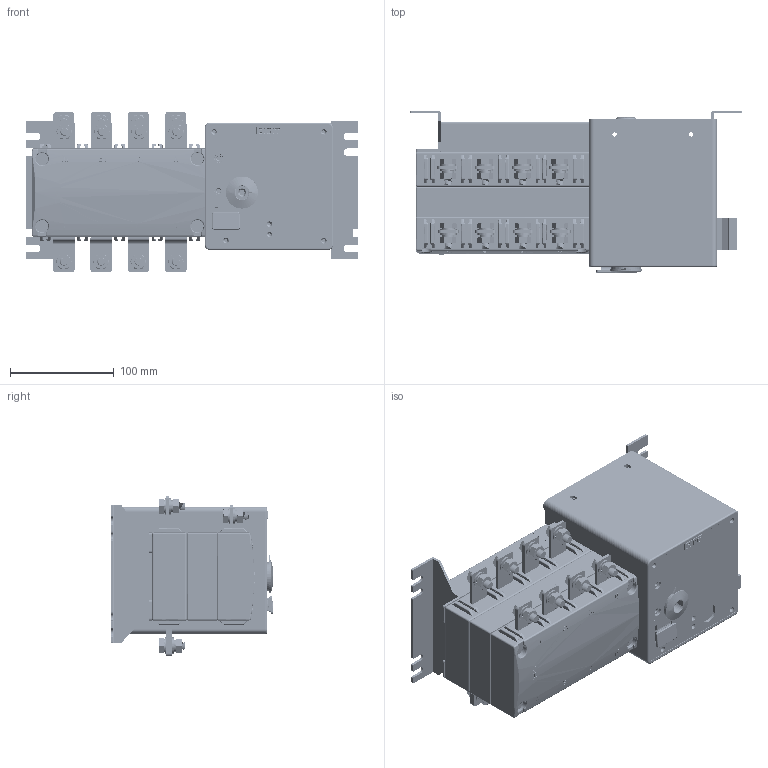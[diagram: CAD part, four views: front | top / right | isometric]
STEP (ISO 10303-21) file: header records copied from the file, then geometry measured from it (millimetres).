
FILE_DESCRIPTION((''),'2;1');
FILE_NAME('NH40-160SZ_ASM_2_ASM','2020-11-28T',('zhuanghy'),(''),'PRO/ENGINEER BY PARAMETRIC TECHNOLOGY CORPORATION, 2008380','PRO/ENGINEER BY PARAMETRIC TECHNOLOGY CORPORATION, 2008380','');
FILE_SCHEMA(('CONFIG_CONTROL_DESIGN'));
Length unit declared in the file: millimetre
Products named in the file (33): 2NH40-160SZ-ZHIJIA_27_1_1_2_1; PRT0001; DUAN_ZI_2_1_1_2_1; NH40-160SZ-ZHAOBAN_52_1_3_28_1; 100-250SUOPAI_1_1; NH40-160SZ-DIFENGBAN_12_1; NH40-160ZHISHIJIAN_12_1; PRT0001_1_1_1_1_1; ASM0008_ASM; ASM0007_ASM; PRT0006_1_1_1_1_1; PRT0012_1_1_1_1_1; PRT0013_1_1_1_1_1; ASM0006_ASM; ASM0005_ASM; ASM0004_ASM; ASM0003_ASM; ASM0002_ASM; ASM0009_ASM; ASM0003_ASM_ASM_1_ASM_1_ASM_1_A_ASM; ASM0001_ASM; DB-5-7-NH40-125LASM_ASM_ASM_1_A_ASM; ___TMP__NAME___1_1; ASM0004_ASM_1_ASM_1_ASM; ASM0003_ASM_1_ASM_1_ASM; 12NH40-160SZ-ZHIJIA_27_1_1_5_1; DB_1; SDB_2; PDQ8_2; 0LS8_5; TDQ8_2; LMM8_1; NH40-160SZ_ASM_2_ASM
Assembly tree (96 placements, depth 11):
  NH40-160SZ_ASM_2_ASM
    2NH40-160SZ-ZHIJIA_27_1_1_2_1
    PRT0001
    DUAN_ZI_2_1_1_2_1
    NH40-160SZ-ZHAOBAN_52_1_3_28_1
    100-250SUOPAI_1_1
    NH40-160SZ-DIFENGBAN_12_1
    NH40-160ZHISHIJIAN_12_1
    DB-5-7-NH40-125LASM_ASM_ASM_1_A_ASM
      ASM0001_ASM
        ASM0003_ASM_ASM_1_ASM_1_ASM_1_A_ASM
          ASM0002_ASM
            ASM0003_ASM
              ASM0004_ASM
                ASM0005_ASM
                  ASM0006_ASM
                    ASM0007_ASM  x2
          ASM0009_ASM
    ASM0003_ASM_1_ASM_1_ASM  x2
      ASM0004_ASM_1_ASM_1_ASM
        ___TMP__NAME___1_1
    12NH40-160SZ-ZHIJIA_27_1_1_5_1
    DB_1  x4
    SDB_2  x4
    PDQ8_2  x24
    0LS8_5  x12
    TDQ8_2  x12
    LMM8_1  x12
Bounding box: 320.5 x 157.12 x 155 mm (x, y, z)
Volume: 3395916 mm3; surface area: 817019 mm2
Topology: 82 solids, 91 shells, 7842 faces, 21424 edges, 13785 vertices
Faces by surface type: plane 3837, cylinder 2353, bspline 590, torus 412, cone 395, sphere 190, extrusion 63, revolution 2
Entity records: 193430 total; most frequent: CARTESIAN_POINT 55001, ORIENTED_EDGE 29837, DIRECTION 27532, EDGE_CURVE 14933, VERTEX_POINT 9679, VECTOR 9274, LINE 9222, AXIS2_PLACEMENT_3D 9128
